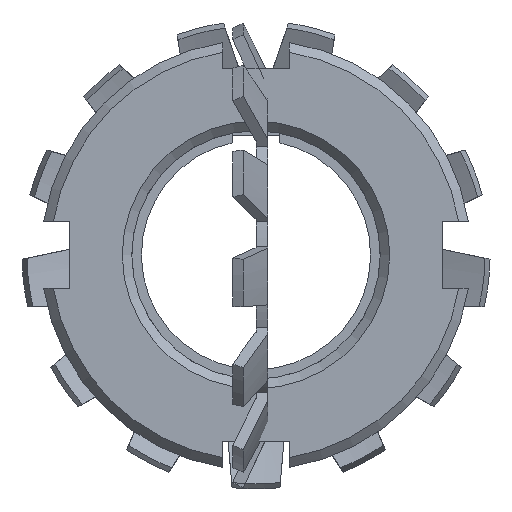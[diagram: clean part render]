
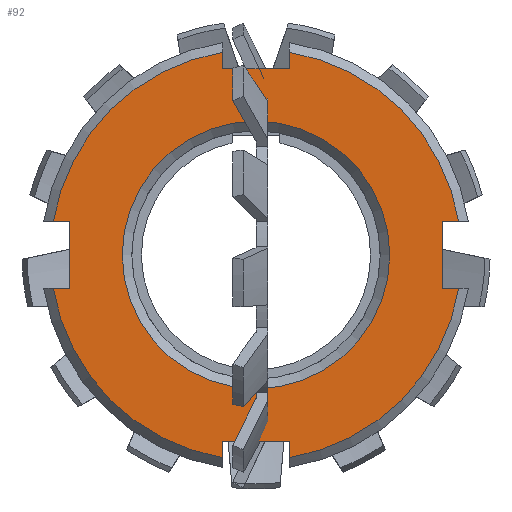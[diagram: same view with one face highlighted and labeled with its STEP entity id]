
A CAD part, front view. The second image highlights one B-rep face of the part: STEP entity #92.
In plain terms, the highlighted planar face has unit normal (0, -1, 0).
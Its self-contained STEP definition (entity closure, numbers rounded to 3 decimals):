
#92 = ADVANCED_FACE( '', ( #195, #196 ), #197, .F. );
#195 = FACE_BOUND( '', #325, .T. );
#196 = FACE_OUTER_BOUND( '', #326, .T. );
#197 = PLANE( '', #327 );
#325 = EDGE_LOOP( '', ( #567 ) );
#326 = EDGE_LOOP( '', ( #568, #569, #570, #571, #572, #573, #574, #575, #576, #577, #578, #579, #580, #581, #582, #583 ) );
#327 = AXIS2_PLACEMENT_3D( '', #584, #585, #586 );
#567 = ORIENTED_EDGE( '', *, *, #1042, .F. );
#568 = ORIENTED_EDGE( '', *, *, #1043, .F. );
#569 = ORIENTED_EDGE( '', *, *, #1030, .T. );
#570 = ORIENTED_EDGE( '', *, *, #1044, .T. );
#571 = ORIENTED_EDGE( '', *, *, #1027, .T. );
#572 = ORIENTED_EDGE( '', *, *, #1045, .F. );
#573 = ORIENTED_EDGE( '', *, *, #1046, .T. );
#574 = ORIENTED_EDGE( '', *, *, #1047, .T. );
#575 = ORIENTED_EDGE( '', *, *, #1048, .T. );
#576 = ORIENTED_EDGE( '', *, *, #1049, .F. );
#577 = ORIENTED_EDGE( '', *, *, #1015, .T. );
#578 = ORIENTED_EDGE( '', *, *, #1050, .T. );
#579 = ORIENTED_EDGE( '', *, *, #1022, .T. );
#580 = ORIENTED_EDGE( '', *, *, #1051, .F. );
#581 = ORIENTED_EDGE( '', *, *, #1052, .T. );
#582 = ORIENTED_EDGE( '', *, *, #1053, .T. );
#583 = ORIENTED_EDGE( '', *, *, #1054, .T. );
#584 = CARTESIAN_POINT( '', ( 0., -7.75, 22.5 ) );
#585 = DIRECTION( '', ( 0., 1., 0. ) );
#586 = DIRECTION( '', ( 0., 0., 1. ) );
#1015 = EDGE_CURVE( '', #1321, #1319, #1322, .T. );
#1022 = EDGE_CURVE( '', #1328, #1332, #1334, .F. );
#1027 = EDGE_CURVE( '', #1337, #1341, #1343, .F. );
#1030 = EDGE_CURVE( '', #1348, #1346, #1349, .T. );
#1042 = EDGE_CURVE( '', #1366, #1366, #1367, .T. );
#1043 = EDGE_CURVE( '', #1348, #1368, #1369, .T. );
#1044 = EDGE_CURVE( '', #1346, #1337, #1370, .T. );
#1045 = EDGE_CURVE( '', #1371, #1341, #1372, .T. );
#1046 = EDGE_CURVE( '', #1371, #1373, #1374, .T. );
#1047 = EDGE_CURVE( '', #1373, #1375, #1376, .T. );
#1048 = EDGE_CURVE( '', #1375, #1377, #1378, .F. );
#1049 = EDGE_CURVE( '', #1321, #1377, #1379, .T. );
#1050 = EDGE_CURVE( '', #1319, #1328, #1380, .T. );
#1051 = EDGE_CURVE( '', #1381, #1332, #1382, .T. );
#1052 = EDGE_CURVE( '', #1381, #1383, #1384, .T. );
#1053 = EDGE_CURVE( '', #1383, #1385, #1386, .T. );
#1054 = EDGE_CURVE( '', #1385, #1368, #1387, .F. );
#1319 = VERTEX_POINT( '', #2257 );
#1321 = VERTEX_POINT( '', #2260 );
#1322 = LINE( '', #2261, #2262 );
#1328 = VERTEX_POINT( '', #2276 );
#1332 = VERTEX_POINT( '', #2283 );
#1334 = CIRCLE( '', #2288, 21.5 );
#1337 = VERTEX_POINT( '', #2291 );
#1341 = VERTEX_POINT( '', #2298 );
#1343 = CIRCLE( '', #2303, 21.5 );
#1346 = VERTEX_POINT( '', #2306 );
#1348 = VERTEX_POINT( '', #2309 );
#1349 = LINE( '', #2310, #2311 );
#1366 = VERTEX_POINT( '', #2340 );
#1367 = CIRCLE( '', #2341, 14. );
#1368 = VERTEX_POINT( '', #2342 );
#1369 = LINE( '', #2343, #2344 );
#1370 = LINE( '', #2345, #2346 );
#1371 = VERTEX_POINT( '', #2347 );
#1372 = LINE( '', #2348, #2349 );
#1373 = VERTEX_POINT( '', #2350 );
#1374 = LINE( '', #2351, #2352 );
#1375 = VERTEX_POINT( '', #2353 );
#1376 = LINE( '', #2354, #2355 );
#1377 = VERTEX_POINT( '', #2356 );
#1378 = CIRCLE( '', #2357, 21.5 );
#1379 = LINE( '', #2358, #2359 );
#1380 = LINE( '', #2360, #2361 );
#1381 = VERTEX_POINT( '', #2362 );
#1382 = LINE( '', #2363, #2364 );
#1383 = VERTEX_POINT( '', #2365 );
#1384 = LINE( '', #2366, #2367 );
#1385 = VERTEX_POINT( '', #2368 );
#1386 = LINE( '', #2369, #2370 );
#1387 = CIRCLE( '', #2371, 21.5 );
#2257 = CARTESIAN_POINT( '', ( 19.5, -7.75, 3.5 ) );
#2260 = CARTESIAN_POINT( '', ( 19.5, -7.75, -3.5 ) );
#2261 = CARTESIAN_POINT( '', ( 19.5, -7.75, -3.5 ) );
#2262 = VECTOR( '', #2819, 1000. );
#2276 = CARTESIAN_POINT( '', ( 21.213, -7.75, 3.5 ) );
#2283 = CARTESIAN_POINT( '', ( 3.5, -7.75, 21.213 ) );
#2288 = AXIS2_PLACEMENT_3D( '', #2824, #2825, #2826 );
#2291 = CARTESIAN_POINT( '', ( -21.213, -7.75, -3.5 ) );
#2298 = CARTESIAN_POINT( '', ( -3.5, -7.75, -21.213 ) );
#2303 = AXIS2_PLACEMENT_3D( '', #2830, #2831, #2832 );
#2306 = CARTESIAN_POINT( '', ( -19.5, -7.75, -3.5 ) );
#2309 = CARTESIAN_POINT( '', ( -19.5, -7.75, 3.5 ) );
#2310 = CARTESIAN_POINT( '', ( -19.5, -7.75, 3.5 ) );
#2311 = VECTOR( '', #2834, 1000. );
#2340 = CARTESIAN_POINT( '', ( 0., -7.75, -14. ) );
#2341 = AXIS2_PLACEMENT_3D( '', #2846, #2847, #2848 );
#2342 = CARTESIAN_POINT( '', ( -21.213, -7.75, 3.5 ) );
#2343 = CARTESIAN_POINT( '', ( -22.5, -7.75, 3.5 ) );
#2344 = VECTOR( '', #2849, 1000. );
#2345 = CARTESIAN_POINT( '', ( -22.5, -7.75, -3.5 ) );
#2346 = VECTOR( '', #2850, 1000. );
#2347 = CARTESIAN_POINT( '', ( -3.5, -7.75, -19.5 ) );
#2348 = CARTESIAN_POINT( '', ( -3.5, -7.75, -22.5 ) );
#2349 = VECTOR( '', #2851, 1000. );
#2350 = CARTESIAN_POINT( '', ( 3.5, -7.75, -19.5 ) );
#2351 = CARTESIAN_POINT( '', ( -3.5, -7.75, -19.5 ) );
#2352 = VECTOR( '', #2852, 1000. );
#2353 = CARTESIAN_POINT( '', ( 3.5, -7.75, -21.213 ) );
#2354 = CARTESIAN_POINT( '', ( 3.5, -7.75, -22.5 ) );
#2355 = VECTOR( '', #2853, 1000. );
#2356 = CARTESIAN_POINT( '', ( 21.213, -7.75, -3.5 ) );
#2357 = AXIS2_PLACEMENT_3D( '', #2854, #2855, #2856 );
#2358 = CARTESIAN_POINT( '', ( 22.5, -7.75, -3.5 ) );
#2359 = VECTOR( '', #2857, 1000. );
#2360 = CARTESIAN_POINT( '', ( 22.5, -7.75, 3.5 ) );
#2361 = VECTOR( '', #2858, 1000. );
#2362 = CARTESIAN_POINT( '', ( 3.5, -7.75, 19.5 ) );
#2363 = CARTESIAN_POINT( '', ( 3.5, -7.75, 22.5 ) );
#2364 = VECTOR( '', #2859, 1000. );
#2365 = CARTESIAN_POINT( '', ( -3.5, -7.75, 19.5 ) );
#2366 = CARTESIAN_POINT( '', ( 3.5, -7.75, 19.5 ) );
#2367 = VECTOR( '', #2860, 1000. );
#2368 = CARTESIAN_POINT( '', ( -3.5, -7.75, 21.213 ) );
#2369 = CARTESIAN_POINT( '', ( -3.5, -7.75, 22.5 ) );
#2370 = VECTOR( '', #2861, 1000. );
#2371 = AXIS2_PLACEMENT_3D( '', #2862, #2863, #2864 );
#2819 = DIRECTION( '', ( 0., 0., 1. ) );
#2824 = CARTESIAN_POINT( '', ( 0., -7.75, 0. ) );
#2825 = DIRECTION( '', ( 0., 1., 0. ) );
#2826 = DIRECTION( '', ( 0., 0., 1. ) );
#2830 = CARTESIAN_POINT( '', ( 0., -7.75, 0. ) );
#2831 = DIRECTION( '', ( 0., 1., 0. ) );
#2832 = DIRECTION( '', ( 0., 0., 1. ) );
#2834 = DIRECTION( '', ( 0., 0., -1. ) );
#2846 = CARTESIAN_POINT( '', ( 0., -7.75, 0. ) );
#2847 = DIRECTION( '', ( 0., -1., 0. ) );
#2848 = DIRECTION( '', ( 0., 0., -1. ) );
#2849 = DIRECTION( '', ( -1., 0., 0. ) );
#2850 = DIRECTION( '', ( -1., 0., 0. ) );
#2851 = DIRECTION( '', ( 0., 0., -1. ) );
#2852 = DIRECTION( '', ( 1., 0., 0. ) );
#2853 = DIRECTION( '', ( 0., 0., -1. ) );
#2854 = CARTESIAN_POINT( '', ( 0., -7.75, 0. ) );
#2855 = DIRECTION( '', ( 0., 1., 0. ) );
#2856 = DIRECTION( '', ( 0., 0., 1. ) );
#2857 = DIRECTION( '', ( 1., 0., 0. ) );
#2858 = DIRECTION( '', ( 1., 0., 0. ) );
#2859 = DIRECTION( '', ( 0., 0., 1. ) );
#2860 = DIRECTION( '', ( -1., 0., 0. ) );
#2861 = DIRECTION( '', ( 0., 0., 1. ) );
#2862 = CARTESIAN_POINT( '', ( 0., -7.75, 0. ) );
#2863 = DIRECTION( '', ( 0., 1., 0. ) );
#2864 = DIRECTION( '', ( 0., 0., 1. ) );
